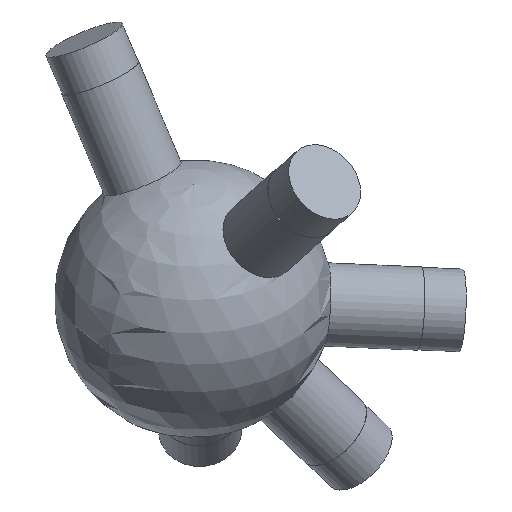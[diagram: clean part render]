
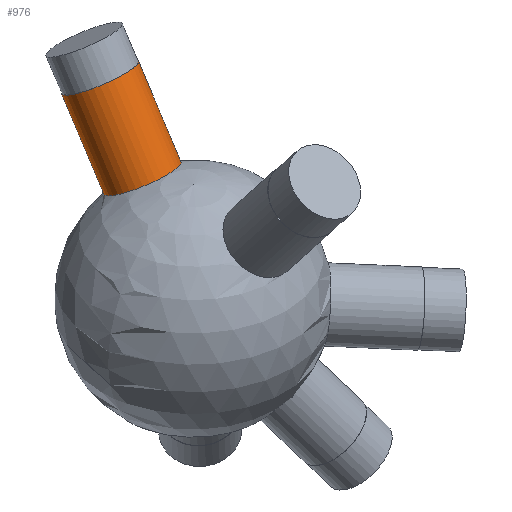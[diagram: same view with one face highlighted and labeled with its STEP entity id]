
A CAD part, isometric view. The second image highlights one B-rep face of the part: STEP entity #976.
In plain terms, the highlighted cylindrical face has radius 6 mm (diameter 12 mm), a full revolution.
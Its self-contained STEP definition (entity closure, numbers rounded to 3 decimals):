
#33 = SPHERICAL_SURFACE('',#34,20.);
#34 = AXIS2_PLACEMENT_3D('',#35,#36,#37);
#35 = CARTESIAN_POINT('',(0.,0.,0.));
#36 = DIRECTION('',(0.,0.,1.));
#37 = DIRECTION('',(1.,0.,-0.));
#529 = EDGE_CURVE('',#530,#530,#532,.T.);
#530 = VERTEX_POINT('',#531);
#531 = CARTESIAN_POINT('',(-0.128,15.256,
    12.932));
#532 = SURFACE_CURVE('',#533,(#538,#635),.PCURVE_S1.);
#533 = CIRCLE('',#534,6.);
#534 = AXIS2_PLACEMENT_3D('',#535,#536,#537);
#535 = CARTESIAN_POINT('',(-0.128,10.182,
    16.134));
#536 = DIRECTION('',(-0.007,0.534,0.846));
#537 = DIRECTION('',(0.,-0.846,0.534)
  );
#538 = PCURVE('',#33,#539);
#539 = DEFINITIONAL_REPRESENTATION('',(#540),#634);
#540 = B_SPLINE_CURVE_WITH_KNOTS('',8,(#541,#542,#543,#544,#545,#546,
    #547,#548,#549,#550,#551,#552,#553,#554,#555,#556,#557,#558,#559,
    #560,#561,#562,#563,#564,#565,#566,#567,#568,#569,#570,#571,#572,
    #573,#574,#575,#576,#577,#578,#579,#580,#581,#582,#583,#584,#585,
    #586,#587,#588,#589,#590,#591,#592,#593,#594,#595,#596,#597,#598,
    #599,#600,#601,#602,#603,#604,#605,#606,#607,#608,#609,#610,#611,
    #612,#613,#614,#615,#616,#617,#618,#619,#620,#621,#622,#623,#624,
    #625,#626,#627,#628,#629,#630,#631,#632,#633),.UNSPECIFIED.,.T.,.F.,
  (9,7,7,7,7,7,7,7,7,7,7,7,7,9),(3.142,3.927,
    4.614,5.216,5.742,5.972,
    6.188,6.39,6.58,6.935,
    7.247,7.791,8.608,9.425),
  .UNSPECIFIED.);
#541 = CARTESIAN_POINT('',(1.579,0.703));
#542 = CARTESIAN_POINT('',(1.618,0.703));
#543 = CARTESIAN_POINT('',(1.656,0.705));
#544 = CARTESIAN_POINT('',(1.695,0.709));
#545 = CARTESIAN_POINT('',(1.733,0.716));
#546 = CARTESIAN_POINT('',(1.771,0.725));
#547 = CARTESIAN_POINT('',(1.807,0.736));
#548 = CARTESIAN_POINT('',(1.844,0.749));
#549 = CARTESIAN_POINT('',(1.909,0.778));
#550 = CARTESIAN_POINT('',(1.939,0.793));
#551 = CARTESIAN_POINT('',(1.967,0.809));
#552 = CARTESIAN_POINT('',(1.995,0.827));
#553 = CARTESIAN_POINT('',(2.021,0.846));
#554 = CARTESIAN_POINT('',(2.046,0.866));
#555 = CARTESIAN_POINT('',(2.069,0.887));
#556 = CARTESIAN_POINT('',(2.109,0.929));
#557 = CARTESIAN_POINT('',(2.126,0.949));
#558 = CARTESIAN_POINT('',(2.141,0.97));
#559 = CARTESIAN_POINT('',(2.154,0.992));
#560 = CARTESIAN_POINT('',(2.165,1.014));
#561 = CARTESIAN_POINT('',(2.174,1.036));
#562 = CARTESIAN_POINT('',(2.179,1.058));
#563 = CARTESIAN_POINT('',(2.181,1.101));
#564 = CARTESIAN_POINT('',(2.179,1.12));
#565 = CARTESIAN_POINT('',(2.174,1.14));
#566 = CARTESIAN_POINT('',(2.165,1.16));
#567 = CARTESIAN_POINT('',(2.152,1.179));
#568 = CARTESIAN_POINT('',(2.133,1.197));
#569 = CARTESIAN_POINT('',(2.108,1.215));
#570 = CARTESIAN_POINT('',(2.062,1.239));
#571 = CARTESIAN_POINT('',(2.047,1.246));
#572 = CARTESIAN_POINT('',(2.03,1.253));
#573 = CARTESIAN_POINT('',(2.012,1.259));
#574 = CARTESIAN_POINT('',(1.992,1.266));
#575 = CARTESIAN_POINT('',(1.97,1.271));
#576 = CARTESIAN_POINT('',(1.948,1.277));
#577 = CARTESIAN_POINT('',(1.9,1.287));
#578 = CARTESIAN_POINT('',(1.876,1.291));
#579 = CARTESIAN_POINT('',(1.851,1.295));
#580 = CARTESIAN_POINT('',(1.824,1.299));
#581 = CARTESIAN_POINT('',(1.796,1.302));
#582 = CARTESIAN_POINT('',(1.767,1.305));
#583 = CARTESIAN_POINT('',(1.737,1.307));
#584 = CARTESIAN_POINT('',(1.678,1.311));
#585 = CARTESIAN_POINT('',(1.649,1.312));
#586 = CARTESIAN_POINT('',(1.619,1.313));
#587 = CARTESIAN_POINT('',(1.589,1.313));
#588 = CARTESIAN_POINT('',(1.559,1.313));
#589 = CARTESIAN_POINT('',(1.53,1.312));
#590 = CARTESIAN_POINT('',(1.5,1.311));
#591 = CARTESIAN_POINT('',(1.444,1.308));
#592 = CARTESIAN_POINT('',(1.418,1.306));
#593 = CARTESIAN_POINT('',(1.392,1.304));
#594 = CARTESIAN_POINT('',(1.367,1.302));
#595 = CARTESIAN_POINT('',(1.342,1.299));
#596 = CARTESIAN_POINT('',(1.319,1.296));
#597 = CARTESIAN_POINT('',(1.297,1.292));
#598 = CARTESIAN_POINT('',(1.235,1.281));
#599 = CARTESIAN_POINT('',(1.198,1.273));
#600 = CARTESIAN_POINT('',(1.165,1.264));
#601 = CARTESIAN_POINT('',(1.136,1.254));
#602 = CARTESIAN_POINT('',(1.11,1.243));
#603 = CARTESIAN_POINT('',(1.088,1.232));
#604 = CARTESIAN_POINT('',(1.069,1.22));
#605 = CARTESIAN_POINT('',(1.038,1.198));
#606 = CARTESIAN_POINT('',(1.026,1.187));
#607 = CARTESIAN_POINT('',(1.016,1.176));
#608 = CARTESIAN_POINT('',(1.008,1.165));
#609 = CARTESIAN_POINT('',(1.001,1.153));
#610 = CARTESIAN_POINT('',(0.996,1.142));
#611 = CARTESIAN_POINT('',(0.992,1.13));
#612 = CARTESIAN_POINT('',(0.985,1.098));
#613 = CARTESIAN_POINT('',(0.984,1.078));
#614 = CARTESIAN_POINT('',(0.987,1.057));
#615 = CARTESIAN_POINT('',(0.993,1.037));
#616 = CARTESIAN_POINT('',(1.001,1.017));
#617 = CARTESIAN_POINT('',(1.01,0.997));
#618 = CARTESIAN_POINT('',(1.022,0.978));
#619 = CARTESIAN_POINT('',(1.056,0.93));
#620 = CARTESIAN_POINT('',(1.079,0.903));
#621 = CARTESIAN_POINT('',(1.106,0.877));
#622 = CARTESIAN_POINT('',(1.135,0.853));
#623 = CARTESIAN_POINT('',(1.166,0.83));
#624 = CARTESIAN_POINT('',(1.199,0.809));
#625 = CARTESIAN_POINT('',(1.234,0.79));
#626 = CARTESIAN_POINT('',(1.305,0.756));
#627 = CARTESIAN_POINT('',(1.342,0.742));
#628 = CARTESIAN_POINT('',(1.381,0.729));
#629 = CARTESIAN_POINT('',(1.419,0.719));
#630 = CARTESIAN_POINT('',(1.459,0.711));
#631 = CARTESIAN_POINT('',(1.499,0.706));
#632 = CARTESIAN_POINT('',(1.539,0.703));
#633 = CARTESIAN_POINT('',(1.579,0.703));
#634 = ( GEOMETRIC_REPRESENTATION_CONTEXT(2) 
PARAMETRIC_REPRESENTATION_CONTEXT() REPRESENTATION_CONTEXT('2D SPACE',''
  ) );
#635 = PCURVE('',#636,#641);
#636 = CYLINDRICAL_SURFACE('',#637,6.);
#637 = AXIS2_PLACEMENT_3D('',#638,#639,#640);
#638 = CARTESIAN_POINT('',(0.,0.,0.));
#639 = DIRECTION('',(-0.007,0.534,0.846));
#640 = DIRECTION('',(0.,0.846,-0.534)
  );
#641 = DEFINITIONAL_REPRESENTATION('',(#642),#646);
#642 = LINE('',#643,#644);
#643 = CARTESIAN_POINT('',(-3.142,19.079));
#644 = VECTOR('',#645,1.);
#645 = DIRECTION('',(1.,0.));
#646 = ( GEOMETRIC_REPRESENTATION_CONTEXT(2) 
PARAMETRIC_REPRESENTATION_CONTEXT() REPRESENTATION_CONTEXT('2D SPACE',''
  ) );
#976 = ADVANCED_FACE('',(#977),#636,.T.);
#977 = FACE_BOUND('',#978,.T.);
#978 = EDGE_LOOP('',(#979,#1002,#1029,#1030));
#979 = ORIENTED_EDGE('',*,*,#980,.T.);
#980 = EDGE_CURVE('',#530,#981,#983,.T.);
#981 = VERTEX_POINT('',#982);
#982 = CARTESIAN_POINT('',(-0.234,23.773,26.43)
  );
#983 = SEAM_CURVE('',#984,(#988,#995),.PCURVE_S1.);
#984 = LINE('',#985,#986);
#985 = CARTESIAN_POINT('',(0.,5.074,
    -3.202));
#986 = VECTOR('',#987,1.);
#987 = DIRECTION('',(-0.007,0.534,0.846));
#988 = PCURVE('',#636,#989);
#989 = DEFINITIONAL_REPRESENTATION('',(#990),#994);
#990 = LINE('',#991,#992);
#991 = CARTESIAN_POINT('',(6.283,-0.));
#992 = VECTOR('',#993,1.);
#993 = DIRECTION('',(0.,1.));
#994 = ( GEOMETRIC_REPRESENTATION_CONTEXT(2) 
PARAMETRIC_REPRESENTATION_CONTEXT() REPRESENTATION_CONTEXT('2D SPACE',''
  ) );
#995 = PCURVE('',#636,#996);
#996 = DEFINITIONAL_REPRESENTATION('',(#997),#1001);
#997 = LINE('',#998,#999);
#998 = CARTESIAN_POINT('',(0.,-0.));
#999 = VECTOR('',#1000,1.);
#1000 = DIRECTION('',(0.,1.));
#1001 = ( GEOMETRIC_REPRESENTATION_CONTEXT(2) 
PARAMETRIC_REPRESENTATION_CONTEXT() REPRESENTATION_CONTEXT('2D SPACE',''
  ) );
#1002 = ORIENTED_EDGE('',*,*,#1003,.F.);
#1003 = EDGE_CURVE('',#981,#981,#1004,.T.);
#1004 = SURFACE_CURVE('',#1005,(#1010,#1017),.PCURVE_S1.);
#1005 = CIRCLE('',#1006,6.);
#1006 = AXIS2_PLACEMENT_3D('',#1007,#1008,#1009);
#1007 = CARTESIAN_POINT('',(-0.234,18.699,
    29.632));
#1008 = DIRECTION('',(-0.007,0.534,0.846)
  );
#1009 = DIRECTION('',(0.,0.846,-0.534
    ));
#1010 = PCURVE('',#636,#1011);
#1011 = DEFINITIONAL_REPRESENTATION('',(#1012),#1016);
#1012 = LINE('',#1013,#1014);
#1013 = CARTESIAN_POINT('',(0.,35.039));
#1014 = VECTOR('',#1015,1.);
#1015 = DIRECTION('',(1.,0.));
#1016 = ( GEOMETRIC_REPRESENTATION_CONTEXT(2) 
PARAMETRIC_REPRESENTATION_CONTEXT() REPRESENTATION_CONTEXT('2D SPACE',''
  ) );
#1017 = PCURVE('',#1018,#1023);
#1018 = PLANE('',#1019);
#1019 = AXIS2_PLACEMENT_3D('',#1020,#1021,#1022);
#1020 = CARTESIAN_POINT('',(-0.234,18.699,
    29.632));
#1021 = DIRECTION('',(-0.007,0.534,0.846)
  );
#1022 = DIRECTION('',(0.,0.846,-0.534
    ));
#1023 = DEFINITIONAL_REPRESENTATION('',(#1024),#1028);
#1024 = CIRCLE('',#1025,6.);
#1025 = AXIS2_PLACEMENT_2D('',#1026,#1027);
#1026 = CARTESIAN_POINT('',(0.,0.));
#1027 = DIRECTION('',(1.,0.));
#1028 = ( GEOMETRIC_REPRESENTATION_CONTEXT(2) 
PARAMETRIC_REPRESENTATION_CONTEXT() REPRESENTATION_CONTEXT('2D SPACE',''
  ) );
#1029 = ORIENTED_EDGE('',*,*,#980,.F.);
#1030 = ORIENTED_EDGE('',*,*,#529,.T.);
